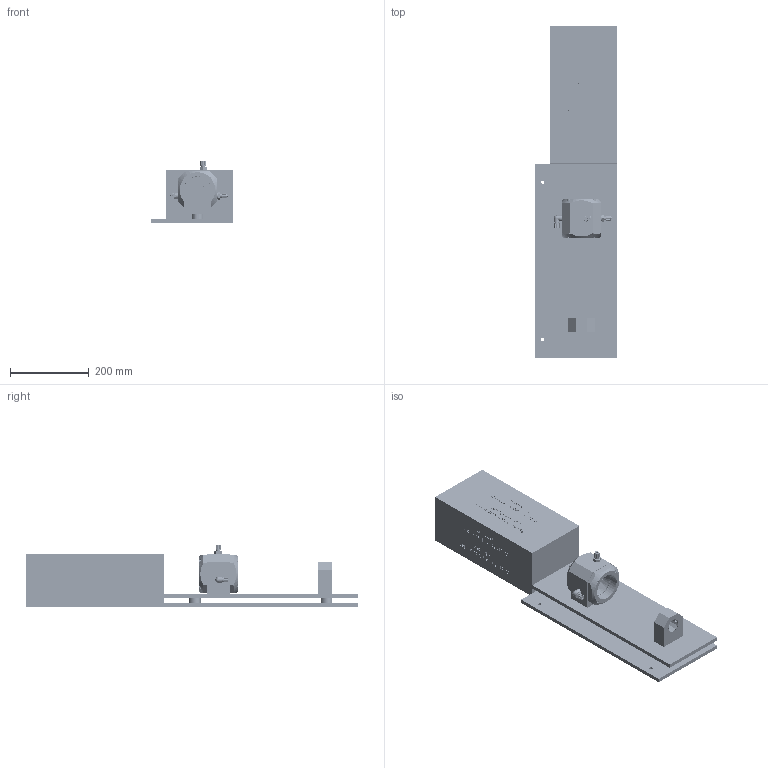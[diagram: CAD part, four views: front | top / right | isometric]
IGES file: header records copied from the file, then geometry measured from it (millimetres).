
Start section: SolidWorks IGES file using analytic representation for surfaces
Global section: file name: C:\Users\aloerke\Desktop\Arbeits-Ordner\Volker\LZX869_TD_00000__001.IGS; native system: SolidWorks 2022; preprocessor: SolidWorks 2022; author: aloerke; date: 230428.085338; units: millimetre
Bounding box: 210 x 845 x 160 mm (x, y, z)
Surface area: 828726.7 mm2 (no closed solid volume)
Topology: 0 solids, 0 shells, 3732 faces, 53740 edges, 53701 vertices
Faces by surface type: bspline 3201, revolution 531
